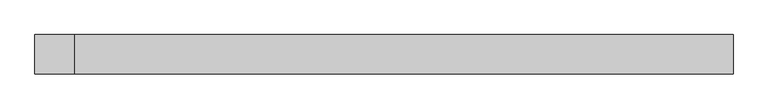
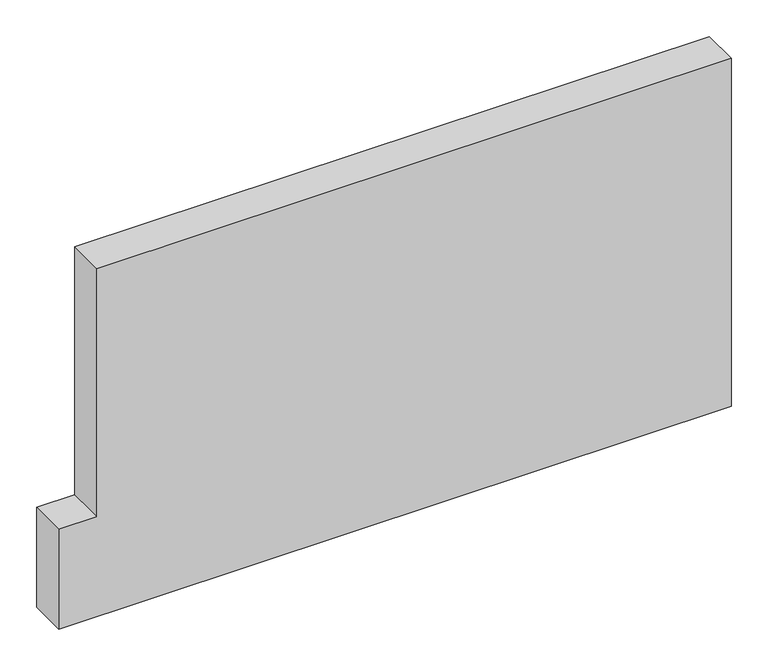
"""IFC4 building model written with IfcOpenShell, lengths in millimetres: plate geometry, Системная панель : Алюкобонд серый."""

from ifc_helpers import new_model, si_unit, frame, origin, place, context, project, spatial, polyline, outline, extrude, source, transform, mapped, element, save


def plate_f8247c66(model_context):
    return source(origin(), model_context, "Body", "SweptSolid", [
        extrude(outline(polyline([(0.0, -530.5), (0.0, 530.5), (580.0, 530.5), (580.0, -470.1193333), (166.4659379, -470.1193333), (166.4659379, -530.5), (0.0, -530.5)])), frame((0.0, -49.5, 0.0), z_axis=(0.0, 1.0, 0.0), x_axis=(0.0, 0.0, 1.0)), (0.0, 0.0, 1.0), 60.0),
    ])


if __name__ == "__main__":
    model = new_model("IFC4")
    model_context = context("Model", 3, world=origin())
    ifc_project = project(units=[si_unit("LENGTHUNIT", "METRE", prefix="MILLI")], contexts=[model_context])
    site = spatial("IfcSite", under=ifc_project)
    building = spatial("IfcBuilding", under=site)
    placement = place(None, origin())
    plate_shape = plate_f8247c66(model_context)
    element("IfcPlate", 1, ObjectType="Системная панель : Алюкобонд серый", at=placement, inside=building, context=model_context, shape_type="MappedRepresentation", body=[
        mapped(plate_shape, transform((0.0, 0.0, 0.0), x_axis=(1.0, 0.0, 0.0), y_axis=(0.0, 1.0, 0.0), z_axis=(0.0, 0.0, 1.0))),
    ])
    save(model, "model.ifc")
